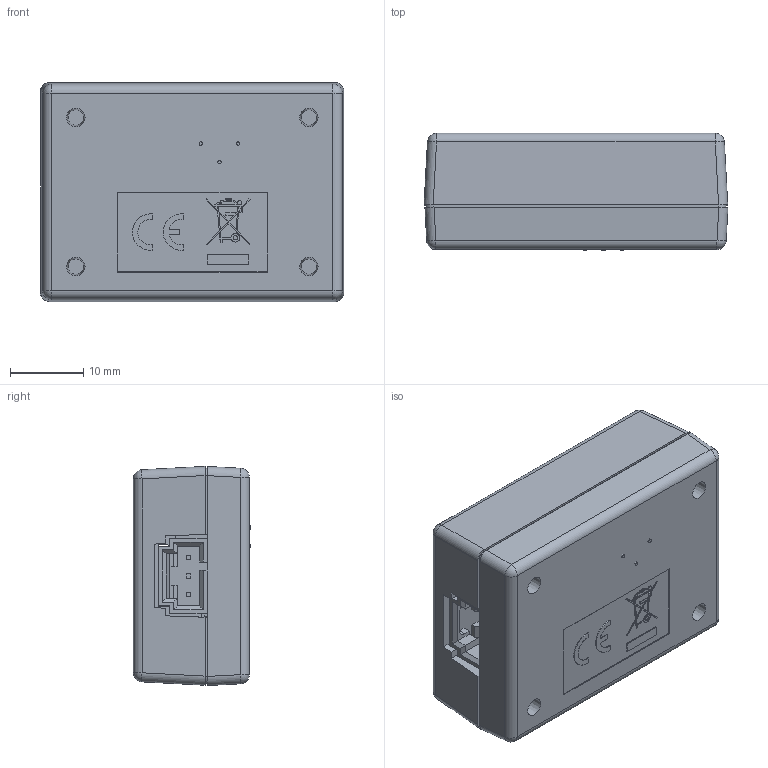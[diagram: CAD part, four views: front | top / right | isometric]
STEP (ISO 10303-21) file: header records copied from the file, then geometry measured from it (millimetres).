
FILE_DESCRIPTION(/* description */ ('Alibre Inc.'),/* implementation_level */ '2;1');
FILE_NAME(/* name */ 'export-420ED266-7B18-472E-BAC3-68CFCCEA7996',/* time_stamp */ '2020-07-29T12:18:05-06:00',/* author */ (''),/* organization */ (''),/* preprocessor_version */ 'ST-DEVELOPER v17',/* originating_system */ 'Alibre',/* authorisation */ '');
FILE_SCHEMA (('CONFIG_CONTROL_DESIGN'));
Length unit declared in the file: centimetre
Bounding box: 41.39 x 15.97 x 29.85 mm (x, y, z)
Volume: 8877.7 mm3; surface area: 12895.8 mm2
Topology: 58 solids, 58 shells, 1310 faces, 3363 edges, 2192 vertices
Faces by surface type: plane 980, cylinder 210, bspline 94, cone 16, sphere 10
Full cylindrical faces by diameter (mm): 0.6 x2, 0.711 x3, 0.965 x3, 1.321 x2, 3.124 x4, 3.175 x4, 3.556 x1, 4.064 x2, 5.08 x1
Entity records: 47964 total; most frequent: CARTESIAN_POINT 12378, ORIENTED_EDGE 5896, DIRECTION 4713, EDGE_CURVE 2948, VECTOR 2218, LINE 2218, VERTEX_POINT 1939, AXIS2_PLACEMENT_3D 1630
